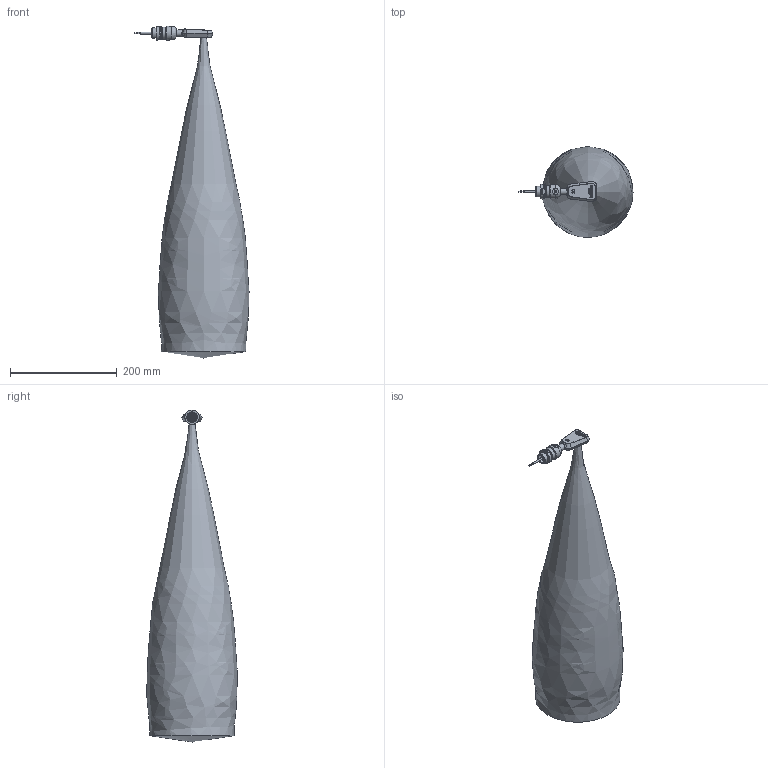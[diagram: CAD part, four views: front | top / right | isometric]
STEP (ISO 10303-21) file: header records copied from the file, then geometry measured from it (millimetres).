
FILE_DESCRIPTION(/* description */ (''),/* implementation_level */ '2;1');
FILE_NAME(/* name */ 'J:\Projekte\Kunststoff-Blechteile\Zeichnungen\Bibliothek Inventor\3D Solids\pms\STP\pms-35_yy_A1_.stp',/* time_stamp */ '2017-11-02T15:20:19+01:00',/* author */ ('Oliver Liedtke'),/* organization */ (''),/* preprocessor_version */ 'ST-DEVELOPER v16.5',/* originating_system */ 'Autodesk Inventor 2017',/* authorisation */ '');
FILE_SCHEMA (('AUTOMOTIVE_DESIGN { 1 0 10303 214 3 1 1 }'));
Length unit declared in the file: millimetre
Products named in the file (6): pms-35_yy_A1_; pms-xxx_yy_A1; KSTG-M8; SKINTOP Hygienic-M20x1,5      Art. Nr. 531051209; detection range 350mm pipe + Blindzone; detection range 350 mm plate + Blindzone
Assembly tree (5 placements, depth 2):
  pms-35_yy_A1_
    pms-xxx_yy_A1
    KSTG-M8
    SKINTOP Hygienic-M20x1,5      Art. Nr. 531051209
    detection range 350mm pipe + Blindzone
    detection range 350 mm plate + Blindzone
Bounding box: 213.77 x 170.06 x 621.81 mm (x, y, z)
Volume: 8435652.9 mm3; surface area: 321923.2 mm2
Topology: 5 solids, 5 shells, 769 faces, 1982 edges, 1293 vertices
Faces by surface type: plane 415, bspline 200, cylinder 80, torus 41, cone 29, sphere 4
Full cylindrical faces by diameter (mm): 0.5 x4, 0.6 x5, 1 x12, 2.4 x1, 3.4 x1, 4.5 x1, 4.6 x1, 5.7 x1, 5.8 x1, 6.5 x2, 6.9 x1, 8 x2, 9 x1, 9.7 x7, 10 x1, 12 x1, 12.3 x1, 13.6 x1, 16.2 x1, 20 x1, 20.15 x1, 22.7 x1, 26.76 x1, 26.8 x2
Entity records: 25473 total; most frequent: CARTESIAN_POINT 7423, ORIENTED_EDGE 3718, DIRECTION 2953, EDGE_CURVE 1859, VERTEX_POINT 1274, LINE 1145, VECTOR 1145, EDGE_LOOP 961
